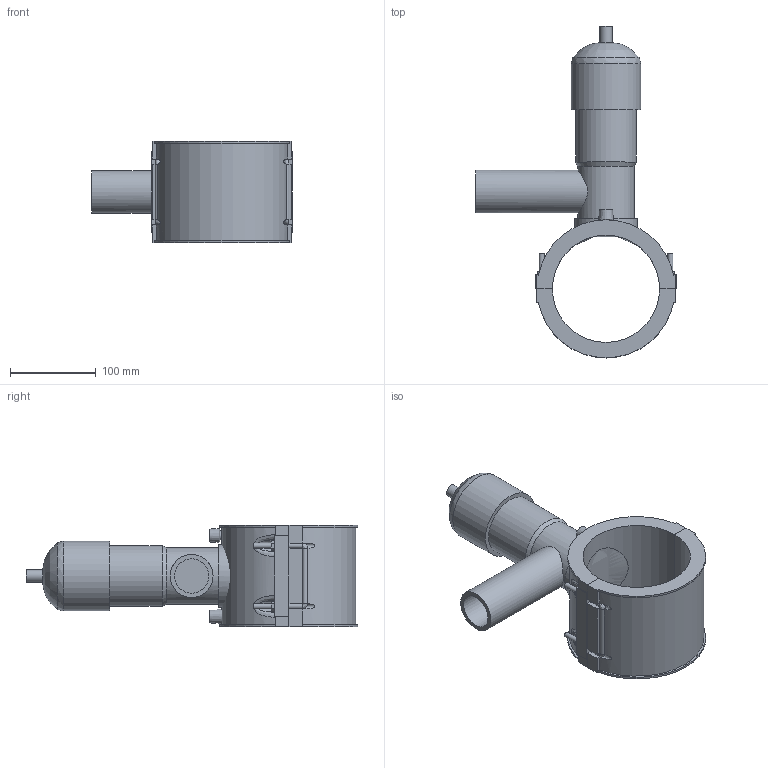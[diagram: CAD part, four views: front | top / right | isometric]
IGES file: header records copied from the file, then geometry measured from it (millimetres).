
Global section: file name: 495404125050.ipt; native system: Autodesk Inventor 2015; preprocessor: unknown; author: KIM; date: 20171106.094252; units: millimetre
Bounding box: 234 x 386.97 x 118 mm (x, y, z)
Volume: 1824717 mm3; surface area: 241077.2 mm2
Topology: 3 solids, 3 shells, 157 faces, 394 edges, 258 vertices
Faces by surface type: plane 99, cylinder 27, revolution 20, cone 7, bspline 4
Full cylindrical faces by diameter (mm): 4 x2, 6 x8, 14.64 x1, 50 x1, 65.88 x1, 70.76 x1, 73.2 x1, 81.333 x1
